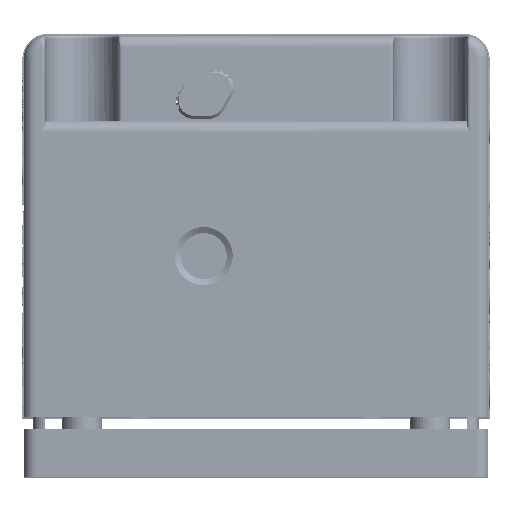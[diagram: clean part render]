
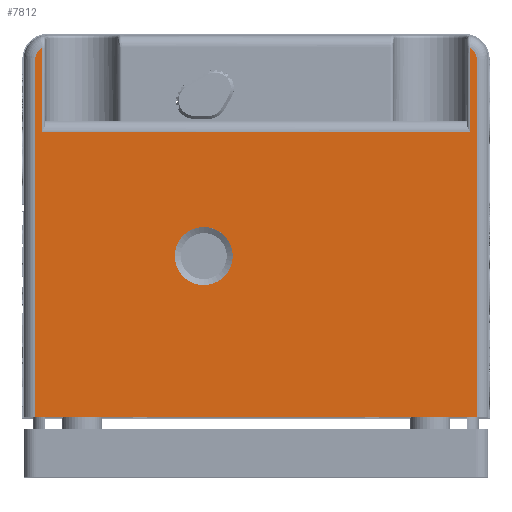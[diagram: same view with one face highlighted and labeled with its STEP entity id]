
A CAD part, top view. The second image highlights one B-rep face of the part: STEP entity #7812.
In plain terms, the highlighted planar face has unit normal (0, 0, 1).
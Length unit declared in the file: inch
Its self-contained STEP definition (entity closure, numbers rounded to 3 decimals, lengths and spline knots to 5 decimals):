
#7812 = ADVANCED_FACE ( 'NONE', ( #295676, #295691 ), #302368, .F. ) ;
#62940 = EDGE_CURVE ( 'NONE', #239349, #239405, #208361, .T. ) ;
#62944 = EDGE_CURVE ( 'NONE', #239407, #239337, #208369, .T. ) ;
#62945 = EDGE_CURVE ( 'NONE', #239337, #239335, #208378, .T. ) ;
#62948 = EDGE_CURVE ( 'NONE', #239335, #239349, #208380, .T. ) ;
#63799 = EDGE_CURVE ( 'NONE', #239447, #239446, #209217, .T. ) ;
#63912 = EDGE_CURVE ( 'NONE', #239446, #239447, #209413, .T. ) ;
#63926 = EDGE_CURVE ( 'NONE', #239416, #239407, #209434, .T. ) ;
#63938 = EDGE_CURVE ( 'NONE', #239405, #239432, #209426, .T. ) ;
#63953 = EDGE_CURVE ( 'NONE', #239432, #239399, #209483, .T. ) ;
#63986 = EDGE_CURVE ( 'NONE', #239399, #239416, #209533, .T. ) ;
#87036 = ORIENTED_EDGE ( 'NONE', *, *, #62944, .T. ) ;
#87038 = ORIENTED_EDGE ( 'NONE', *, *, #62945, .T. ) ;
#87040 = ORIENTED_EDGE ( 'NONE', *, *, #62948, .T. ) ;
#87042 = ORIENTED_EDGE ( 'NONE', *, *, #62940, .T. ) ;
#87044 = ORIENTED_EDGE ( 'NONE', *, *, #63938, .T. ) ;
#87046 = ORIENTED_EDGE ( 'NONE', *, *, #63953, .T. ) ;
#87049 = ORIENTED_EDGE ( 'NONE', *, *, #63986, .T. ) ;
#87051 = ORIENTED_EDGE ( 'NONE', *, *, #63926, .T. ) ;
#87053 = ORIENTED_EDGE ( 'NONE', *, *, #63912, .F. ) ;
#87055 = ORIENTED_EDGE ( 'NONE', *, *, #63799, .F. ) ;
#115370 = AXIS2_PLACEMENT_3D ( 'NONE', #227266, #227270, #227272 ) ;
#115747 = AXIS2_PLACEMENT_3D ( 'NONE', #241930, #241933, #241936 ) ;
#115820 = AXIS2_PLACEMENT_3D ( 'NONE', #242313, #242315, #242318 ) ;
#115834 = AXIS2_PLACEMENT_3D ( 'NONE', #242379, #242381, #242383 ) ;
#189233 = CARTESIAN_POINT ( 'NONE',  ( 0.72555, 3.13574, 1.79134 ) ) ;
#189239 = CARTESIAN_POINT ( 'NONE',  ( 0.72555, 3.42151, 1.79134 ) ) ;
#189263 = CARTESIAN_POINT ( 'NONE',  ( -0.72555, 3.13574, 1.79134 ) ) ;
#189342 = CARTESIAN_POINT ( 'NONE',  ( -0.74803, 2.16928, 1.79134 ) ) ;
#189358 = CARTESIAN_POINT ( 'NONE',  ( 0.74803, 3.38516, 1.79134 ) ) ;
#189366 = CARTESIAN_POINT ( 'NONE',  ( -0.72555, 3.42151, 1.79134 ) ) ;
#189387 = CARTESIAN_POINT ( 'NONE',  ( 0.74803, 2.16928, 1.79134 ) ) ;
#189409 = CARTESIAN_POINT ( 'NONE',  ( -0.74803, 3.38516, 1.79134 ) ) ;
#189431 = CARTESIAN_POINT ( 'NONE',  ( -0.07874, 2.71654, 1.79134 ) ) ;
#189436 = CARTESIAN_POINT ( 'NONE',  ( -0.27559, 2.71654, 1.79134 ) ) ;
#208361 = LINE ( 'NONE', #227248, #208376 ) ;
#208369 = CIRCLE ( 'NONE', #115370, 0.04063 ) ;
#208376 = VECTOR ( 'NONE', #227253, 39.37008 ) ;
#208378 = LINE ( 'NONE', #227251, #208382 ) ;
#208380 = LINE ( 'NONE', #227277, #208386 ) ;
#208382 = VECTOR ( 'NONE', #227242, 39.37008 ) ;
#208386 = VECTOR ( 'NONE', #227282, 39.37008 ) ;
#209217 = CIRCLE ( 'NONE', #115747, 0.09843 ) ;
#209413 = CIRCLE ( 'NONE', #115820, 0.09843 ) ;
#209426 = CIRCLE ( 'NONE', #115834, 0.04063 ) ;
#209434 = LINE ( 'NONE', #242335, #209443 ) ;
#209443 = VECTOR ( 'NONE', #242299, 39.37008 ) ;
#209483 = LINE ( 'NONE', #242410, #209492 ) ;
#209492 = VECTOR ( 'NONE', #242412, 39.37008 ) ;
#209533 = LINE ( 'NONE', #242474, #209542 ) ;
#209542 = VECTOR ( 'NONE', #242496, 39.37008 ) ;
#227242 = DIRECTION ( 'NONE',  ( 0., -1., 0. ) ) ;
#227248 = CARTESIAN_POINT ( 'NONE',  ( -0.72555, 3.46516, 1.79134 ) ) ;
#227251 = CARTESIAN_POINT ( 'NONE',  ( 0.72555, 3.46516, 1.79134 ) ) ;
#227253 = DIRECTION ( 'NONE',  ( 0., 1., 0. ) ) ;
#227266 = CARTESIAN_POINT ( 'NONE',  ( 0.7074, 3.38516, 1.79134 ) ) ;
#227270 = DIRECTION ( 'NONE',  ( 0., 0., 1. ) ) ;
#227272 = DIRECTION ( 'NONE',  ( -1., 0., 0. ) ) ;
#227277 = CARTESIAN_POINT ( 'NONE',  ( -0.7874, 3.13574, 1.79134 ) ) ;
#227282 = DIRECTION ( 'NONE',  ( -1., 0., 0. ) ) ;
#227375 = EDGE_LOOP ( 'NONE', ( #87053, #87055 ) ) ;
#227383 = EDGE_LOOP ( 'NONE', ( #87036, #87038, #87040, #87042, #87044, #87046, #87049, #87051 ) ) ;
#239335 = VERTEX_POINT ( 'NONE', #189233 ) ;
#239337 = VERTEX_POINT ( 'NONE', #189239 ) ;
#239349 = VERTEX_POINT ( 'NONE', #189263 ) ;
#239399 = VERTEX_POINT ( 'NONE', #189342 ) ;
#239405 = VERTEX_POINT ( 'NONE', #189366 ) ;
#239407 = VERTEX_POINT ( 'NONE', #189358 ) ;
#239416 = VERTEX_POINT ( 'NONE', #189387 ) ;
#239432 = VERTEX_POINT ( 'NONE', #189409 ) ;
#239446 = VERTEX_POINT ( 'NONE', #189431 ) ;
#239447 = VERTEX_POINT ( 'NONE', #189436 ) ;
#241930 = CARTESIAN_POINT ( 'NONE',  ( -0.17717, 2.71654, 1.79134 ) ) ;
#241933 = DIRECTION ( 'NONE',  ( 0., 0., 1. ) ) ;
#241936 = DIRECTION ( 'NONE',  ( 1., 0., 0. ) ) ;
#242299 = DIRECTION ( 'NONE',  ( 0., 1., 0. ) ) ;
#242313 = CARTESIAN_POINT ( 'NONE',  ( -0.17717, 2.71654, 1.79134 ) ) ;
#242315 = DIRECTION ( 'NONE',  ( 0., 0., 1. ) ) ;
#242318 = DIRECTION ( 'NONE',  ( 1., 0., 0. ) ) ;
#242335 = CARTESIAN_POINT ( 'NONE',  ( 0.74803, 3.46516, 1.79134 ) ) ;
#242379 = CARTESIAN_POINT ( 'NONE',  ( -0.7074, 3.38516, 1.79134 ) ) ;
#242381 = DIRECTION ( 'NONE',  ( 0., 0., 1. ) ) ;
#242383 = DIRECTION ( 'NONE',  ( -1., 0., 0. ) ) ;
#242410 = CARTESIAN_POINT ( 'NONE',  ( -0.74803, 3.46516, 1.79134 ) ) ;
#242412 = DIRECTION ( 'NONE',  ( 0., -1., 0. ) ) ;
#242474 = CARTESIAN_POINT ( 'NONE',  ( -0.7874, 2.16928, 1.79134 ) ) ;
#242496 = DIRECTION ( 'NONE',  ( 1., 0., 0. ) ) ;
#258416 = AXIS2_PLACEMENT_3D ( 'NONE', #302403, #302406, #302410 ) ;
#295676 = FACE_OUTER_BOUND ( 'NONE', #227383, .T. ) ;
#295691 = FACE_BOUND ( 'NONE', #227375, .T. ) ;
#302368 = PLANE ( 'NONE',  #258416 ) ;
#302403 = CARTESIAN_POINT ( 'NONE',  ( -0.7874, 3.46516, 1.79134 ) ) ;
#302406 = DIRECTION ( 'NONE',  ( 0., 0., -1. ) ) ;
#302410 = DIRECTION ( 'NONE',  ( -1., 0., 0. ) ) ;
